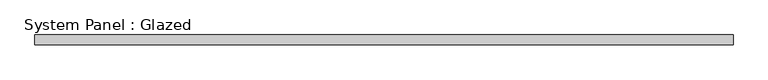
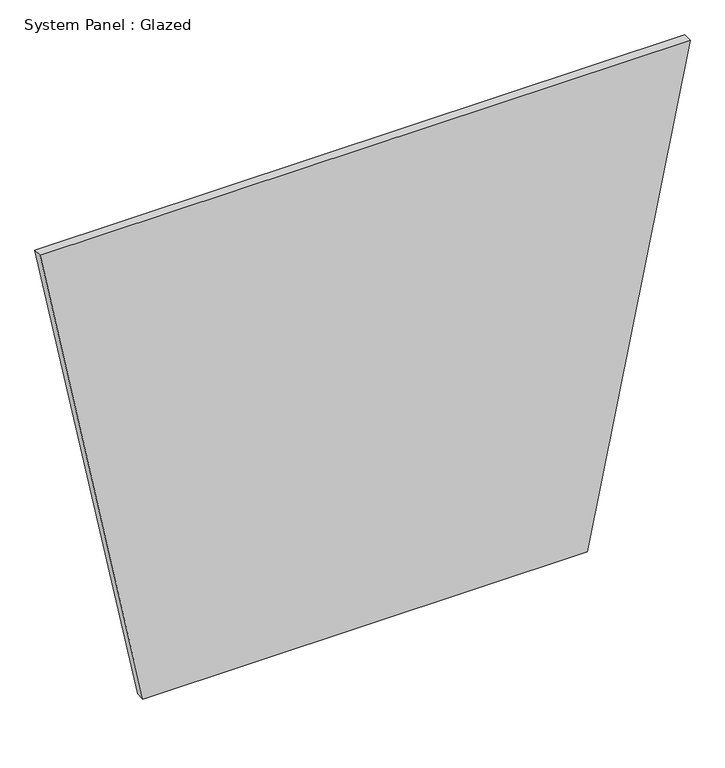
"""IFC4 building model written with IfcOpenShell, lengths in millimetres: plate geometry, System Panel : Glazed."""

from ifc_helpers import new_model, si_unit, frame, origin, place, context, project, spatial, polyline, outline, extrude, source, transform, mapped, element, save


def system_panel_glazed_b3b66b1f(model_context):
    return source(origin(), model_context, "Body", "SweptSolid", [
        extrude(outline(polyline([(0.0, -628.7786023), (0.0, 628.7786023), (1429.8788447, 919.8201239), (1429.8788447, -919.8201239), (0.0, -628.7786023)])), frame((0.0, 19.05, 0.0), z_axis=(0.0, 1.0, 0.0), x_axis=(0.0, 0.0, 1.0)), (0.0, 0.0, 1.0), 25.4),
    ])


if __name__ == "__main__":
    model = new_model("IFC4")
    model_context = context("Model", 3, world=origin())
    ifc_project = project(units=[si_unit("LENGTHUNIT", "METRE", prefix="MILLI")], contexts=[model_context])
    site = spatial("IfcSite", under=ifc_project)
    building = spatial("IfcBuilding", under=site)
    placement = place(None, origin())
    system_panel_glazed_shape = system_panel_glazed_b3b66b1f(model_context)
    element("IfcPlate", 1, ObjectType="System Panel : Glazed", at=placement, inside=building, context=model_context, shape_type="MappedRepresentation", body=[
        mapped(system_panel_glazed_shape, transform((0.0, 0.0, 0.0), x_axis=(1.0, 0.0, 0.0), y_axis=(0.0, 1.0, 0.0), z_axis=(0.0, 0.0, 1.0))),
    ])
    save(model, "model.ifc")
